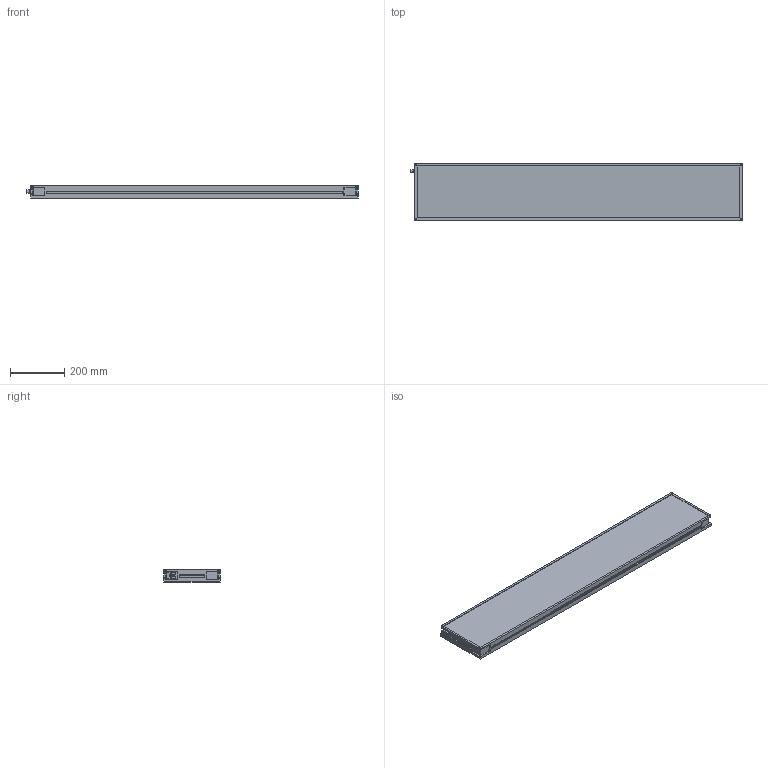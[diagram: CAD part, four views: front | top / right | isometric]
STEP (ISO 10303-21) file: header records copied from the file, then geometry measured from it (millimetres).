
FILE_DESCRIPTION (( 'STEP AP214' ), '1' );
FILE_NAME ('MBACK-xxxx-xxx-M1_CLIENT200x1200.STEP', '2022-03-31T15:57:30', ( '' ), ( '' ), 'SwSTEP 2.0', 'SolidWorks 2020', '' );
FILE_SCHEMA (( 'AUTOMOTIVE_DESIGN' ));
Length unit declared in the file: millimetre
Products named in the file (1): MBACK-xxxx-xxx-M1_CLIENT200x1200
Bounding box: 1225.9 x 208 x 45.5 mm (x, y, z)
Volume: 10389619.8 mm3; surface area: 690503.6 mm2
Topology: 1 solids, 1 shells, 442 faces, 1144 edges, 760 vertices
Faces by surface type: plane 249, cylinder 105, bspline 80, cone 8
Entity records: 17236 total; most frequent: CARTESIAN_POINT 6699, ORIENTED_EDGE 2288, DIRECTION 1936, EDGE_CURVE 1144, VERTEX_POINT 760, LINE 758, VECTOR 758, AXIS2_PLACEMENT_3D 589
